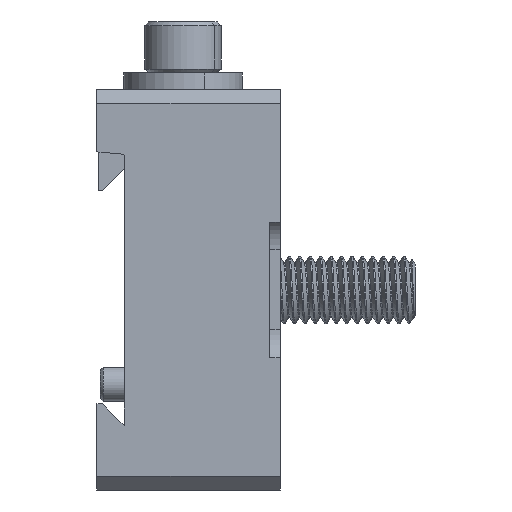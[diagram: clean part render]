
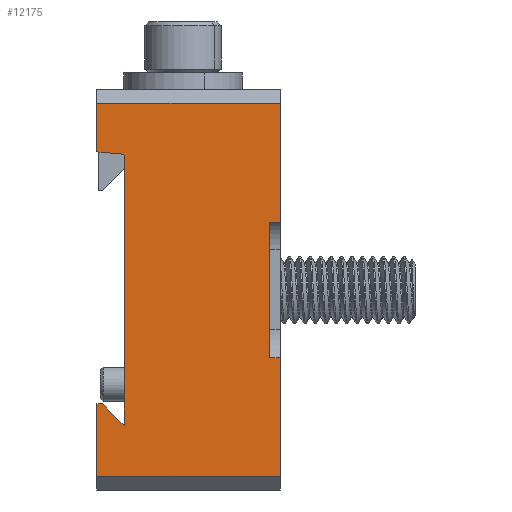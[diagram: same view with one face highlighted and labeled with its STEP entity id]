
A CAD part, left-side view. The second image highlights one B-rep face of the part: STEP entity #12175.
In plain terms, the highlighted planar face has unit normal (-1, 0, 0) as drawn and (0, 0, 1) by its records, which use the part's own axes.
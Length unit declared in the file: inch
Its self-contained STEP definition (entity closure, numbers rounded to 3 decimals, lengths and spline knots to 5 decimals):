
#36 = DIRECTION ( 'NONE',  ( 0., -1., 0. ) ) ;
#369 = DIRECTION ( 'NONE',  ( 1., 0., 0. ) ) ;
#377 = DIRECTION ( 'NONE',  ( -1., 0., 0. ) ) ;
#581 = CARTESIAN_POINT ( 'NONE',  ( -0.84, 0.675, 3. ) ) ;
#584 = ORIENTED_EDGE ( 'NONE', *, *, #23950, .T. ) ;
#908 = ORIENTED_EDGE ( 'NONE', *, *, #21709, .T. ) ;
#1226 = EDGE_CURVE ( 'NONE', #8174, #17385, #11437, .T. ) ;
#1498 = EDGE_CURVE ( 'NONE', #14838, #1668, #22182, .T. ) ;
#1580 = VERTEX_POINT ( 'NONE', #13390 ) ;
#1668 = VERTEX_POINT ( 'NONE', #13309 ) ;
#1750 = ORIENTED_EDGE ( 'NONE', *, *, #12437, .T. ) ;
#2288 = VECTOR ( 'NONE', #20921, 39.37008 ) ;
#2756 = CARTESIAN_POINT ( 'NONE',  ( -1.375, 0.675, 3. ) ) ;
#2854 = ORIENTED_EDGE ( 'NONE', *, *, #3733, .T. ) ;
#2869 = DIRECTION ( 'NONE',  ( -1., 0., 0. ) ) ;
#2893 = DIRECTION ( 'NONE',  ( 0.707, 0.707, 0. ) ) ;
#2943 = VECTOR ( 'NONE', #18828, 39.37008 ) ;
#3020 = VECTOR ( 'NONE', #36, 39.37008 ) ;
#3733 = EDGE_CURVE ( 'NONE', #8762, #8212, #5853, .T. ) ;
#3912 = CARTESIAN_POINT ( 'NONE',  ( 0.5, -0.6, 3. ) ) ;
#4366 = VECTOR ( 'NONE', #369, 39.37008 ) ;
#4368 = CARTESIAN_POINT ( 'NONE',  ( 1.00116, 0.48826, 3. ) ) ;
#4392 = DIRECTION ( 'NONE',  ( 0., -1., 0. ) ) ;
#4410 = CARTESIAN_POINT ( 'NONE',  ( -0.84, 0.475, 3. ) ) ;
#4703 = CARTESIAN_POINT ( 'NONE',  ( -1., 0.475, 3. ) ) ;
#4715 = DIRECTION ( 'NONE',  ( 0., 0., -1. ) ) ;
#4723 = DIRECTION ( 'NONE',  ( 1., 0., 0. ) ) ;
#4950 = ORIENTED_EDGE ( 'NONE', *, *, #17395, .T. ) ;
#5117 = EDGE_LOOP ( 'NONE', ( #9537, #7599, #908, #584, #18175, #21292, #6160, #19089, #13229, #21618, #20796, #4950, #1750, #2854, #20066, #22659 ) ) ;
#5123 = CARTESIAN_POINT ( 'NONE',  ( 1.0175, 0.675, 3. ) ) ;
#5462 = CARTESIAN_POINT ( 'NONE',  ( 0.5, -0.6, 3. ) ) ;
#5684 = CARTESIAN_POINT ( 'NONE',  ( -0.84, 0.635, 3. ) ) ;
#5721 = AXIS2_PLACEMENT_3D ( 'NONE', #19642, #8531, #21514 ) ;
#5853 = LINE ( 'NONE', #22590, #4366 ) ;
#5856 = LINE ( 'NONE', #4703, #20068 ) ;
#5860 = DIRECTION ( 'NONE',  ( -0.087, -0.996, 0. ) ) ;
#6160 = ORIENTED_EDGE ( 'NONE', *, *, #1226, .F. ) ;
#6170 = CARTESIAN_POINT ( 'NONE',  ( -0.5, -0.675, 3. ) ) ;
#6181 = VECTOR ( 'NONE', #17378, 39.37008 ) ;
#6235 = CARTESIAN_POINT ( 'NONE',  ( -1.375, -0.675, 3. ) ) ;
#6460 = VECTOR ( 'NONE', #21687, 39.37008 ) ;
#6544 = PLANE ( 'NONE',  #15027 ) ;
#6564 = VECTOR ( 'NONE', #377, 39.37008 ) ;
#7029 = LINE ( 'NONE', #19820, #6460 ) ;
#7096 = CARTESIAN_POINT ( 'NONE',  ( -1., 0.475, 3. ) ) ;
#7599 = ORIENTED_EDGE ( 'NONE', *, *, #16653, .T. ) ;
#7728 = CARTESIAN_POINT ( 'NONE',  ( -1.375, -0.675, 3. ) ) ;
#7755 = CARTESIAN_POINT ( 'NONE',  ( 1., 0.475, 3. ) ) ;
#7895 = LINE ( 'NONE', #7728, #2943 ) ;
#8052 = EDGE_CURVE ( 'NONE', #16369, #15585, #23106, .T. ) ;
#8054 = CARTESIAN_POINT ( 'NONE',  ( 1.475, 0.675, 3. ) ) ;
#8174 = VERTEX_POINT ( 'NONE', #19149 ) ;
#8212 = VERTEX_POINT ( 'NONE', #6170 ) ;
#8361 = CARTESIAN_POINT ( 'NONE',  ( -1.475, -0.675, 3. ) ) ;
#8399 = DIRECTION ( 'NONE',  ( 1., 0., 0. ) ) ;
#8531 = DIRECTION ( 'NONE',  ( 0., 0., -1. ) ) ;
#8762 = VERTEX_POINT ( 'NONE', #6235 ) ;
#8841 = DIRECTION ( 'NONE',  ( 0., 1., 0. ) ) ;
#8936 = VERTEX_POINT ( 'NONE', #13962 ) ;
#8950 = DIRECTION ( 'NONE',  ( 1., 0., 0. ) ) ;
#9242 = VERTEX_POINT ( 'NONE', #12862 ) ;
#9537 = ORIENTED_EDGE ( 'NONE', *, *, #1498, .T. ) ;
#9671 = EDGE_CURVE ( 'NONE', #14838, #1580, #22172, .T. ) ;
#9850 = LINE ( 'NONE', #8361, #13638 ) ;
#10175 = CARTESIAN_POINT ( 'NONE',  ( -0.5, -0.6, 3. ) ) ;
#10199 = VERTEX_POINT ( 'NONE', #4410 ) ;
#11087 = LINE ( 'NONE', #8054, #6181 ) ;
#11352 = CARTESIAN_POINT ( 'NONE',  ( 1., 0.475, 3. ) ) ;
#11437 = LINE ( 'NONE', #21945, #20746 ) ;
#11721 = VERTEX_POINT ( 'NONE', #20523 ) ;
#12175 = ADVANCED_FACE ( 'NONE', ( #22418 ), #6544, .T. ) ;
#12304 = EDGE_CURVE ( 'NONE', #1580, #8212, #7029, .T. ) ;
#12437 = EDGE_CURVE ( 'NONE', #12686, #8762, #7895, .T. ) ;
#12587 = EDGE_CURVE ( 'NONE', #8936, #21936, #21535, .T. ) ;
#12686 = VERTEX_POINT ( 'NONE', #2756 ) ;
#12862 = CARTESIAN_POINT ( 'NONE',  ( 1.375, 0.675, 3. ) ) ;
#13229 = ORIENTED_EDGE ( 'NONE', *, *, #20529, .T. ) ;
#13235 = VECTOR ( 'NONE', #5860, 39.37008 ) ;
#13309 = CARTESIAN_POINT ( 'NONE',  ( 0.5, -0.675, 3. ) ) ;
#13390 = CARTESIAN_POINT ( 'NONE',  ( -0.5, -0.6, 3. ) ) ;
#13638 = VECTOR ( 'NONE', #4723, 39.37008 ) ;
#13864 = CARTESIAN_POINT ( 'NONE',  ( -1.475, -0.675, 3. ) ) ;
#13962 = CARTESIAN_POINT ( 'NONE',  ( -0.84, 0.675, 3. ) ) ;
#14494 = EDGE_CURVE ( 'NONE', #21093, #21936, #5856, .T. ) ;
#14838 = VERTEX_POINT ( 'NONE', #3912 ) ;
#15027 = AXIS2_PLACEMENT_3D ( 'NONE', #13864, #19520, #8399 ) ;
#15233 = EDGE_CURVE ( 'NONE', #8174, #10199, #16270, .T. ) ;
#15325 = CARTESIAN_POINT ( 'NONE',  ( 0.98124, 0.47, 3. ) ) ;
#15526 = LINE ( 'NONE', #21832, #16096 ) ;
#15585 = VERTEX_POINT ( 'NONE', #4368 ) ;
#15814 = CARTESIAN_POINT ( 'NONE',  ( 0.98124, 0.49, 3. ) ) ;
#16096 = VECTOR ( 'NONE', #8841, 39.37008 ) ;
#16270 = CIRCLE ( 'NONE', #5721, 0.02 ) ;
#16369 = VERTEX_POINT ( 'NONE', #5123 ) ;
#16653 = EDGE_CURVE ( 'NONE', #1668, #11721, #9850, .T. ) ;
#16998 = LINE ( 'NONE', #7755, #6564 ) ;
#17241 = VECTOR ( 'NONE', #2869, 39.37008 ) ;
#17378 = DIRECTION ( 'NONE',  ( -1., 0., 0. ) ) ;
#17385 = VERTEX_POINT ( 'NONE', #15325 ) ;
#17387 = AXIS2_PLACEMENT_3D ( 'NONE', #15814, #4715, #17683 ) ;
#17395 = EDGE_CURVE ( 'NONE', #8936, #12686, #21452, .T. ) ;
#17683 = DIRECTION ( 'NONE',  ( 1., 0., 0. ) ) ;
#18175 = ORIENTED_EDGE ( 'NONE', *, *, #8052, .T. ) ;
#18828 = DIRECTION ( 'NONE',  ( 0., -1., 0. ) ) ;
#19047 = CARTESIAN_POINT ( 'NONE',  ( -0.8, 0.675, 3. ) ) ;
#19084 = EDGE_CURVE ( 'NONE', #15585, #17385, #19654, .T. ) ;
#19089 = ORIENTED_EDGE ( 'NONE', *, *, #15233, .T. ) ;
#19149 = CARTESIAN_POINT ( 'NONE',  ( -0.82677, 0.47, 3. ) ) ;
#19520 = DIRECTION ( 'NONE',  ( 0., 0., 1. ) ) ;
#19642 = CARTESIAN_POINT ( 'NONE',  ( -0.82677, 0.49, 3. ) ) ;
#19654 = CIRCLE ( 'NONE', #17387, 0.02 ) ;
#19820 = CARTESIAN_POINT ( 'NONE',  ( -0.5, -0.6, 3. ) ) ;
#20066 = ORIENTED_EDGE ( 'NONE', *, *, #12304, .F. ) ;
#20068 = VECTOR ( 'NONE', #2893, 39.37008 ) ;
#20360 = VECTOR ( 'NONE', #4392, 39.37008 ) ;
#20523 = CARTESIAN_POINT ( 'NONE',  ( 1.375, -0.675, 3. ) ) ;
#20529 = EDGE_CURVE ( 'NONE', #10199, #21093, #16998, .T. ) ;
#20746 = VECTOR ( 'NONE', #8950, 39.37008 ) ;
#20796 = ORIENTED_EDGE ( 'NONE', *, *, #12587, .F. ) ;
#20921 = DIRECTION ( 'NONE',  ( -1., 0., 0. ) ) ;
#21093 = VERTEX_POINT ( 'NONE', #7096 ) ;
#21292 = ORIENTED_EDGE ( 'NONE', *, *, #19084, .T. ) ;
#21452 = LINE ( 'NONE', #19047, #2288 ) ;
#21514 = DIRECTION ( 'NONE',  ( 1., 0., 0. ) ) ;
#21535 = LINE ( 'NONE', #581, #20360 ) ;
#21618 = ORIENTED_EDGE ( 'NONE', *, *, #14494, .T. ) ;
#21687 = DIRECTION ( 'NONE',  ( 0., -1., 0. ) ) ;
#21709 = EDGE_CURVE ( 'NONE', #11721, #9242, #15526, .T. ) ;
#21832 = CARTESIAN_POINT ( 'NONE',  ( 1.375, -0.675, 3. ) ) ;
#21936 = VERTEX_POINT ( 'NONE', #5684 ) ;
#21945 = CARTESIAN_POINT ( 'NONE',  ( -0.84, 0.47, 3. ) ) ;
#22172 = LINE ( 'NONE', #10175, #17241 ) ;
#22182 = LINE ( 'NONE', #5462, #3020 ) ;
#22418 = FACE_OUTER_BOUND ( 'NONE', #5117, .T. ) ;
#22590 = CARTESIAN_POINT ( 'NONE',  ( -1.475, -0.675, 3. ) ) ;
#22659 = ORIENTED_EDGE ( 'NONE', *, *, #9671, .F. ) ;
#23106 = LINE ( 'NONE', #11352, #13235 ) ;
#23950 = EDGE_CURVE ( 'NONE', #9242, #16369, #11087, .T. ) ;
